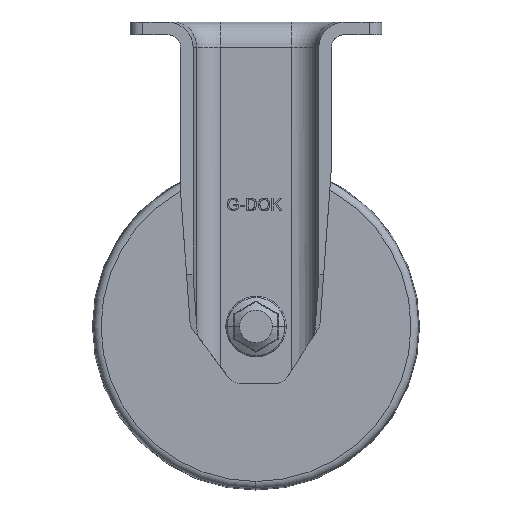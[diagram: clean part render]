
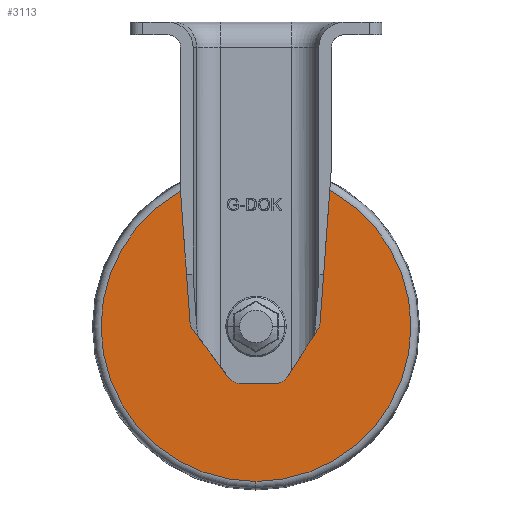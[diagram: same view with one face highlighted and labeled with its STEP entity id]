
A CAD part, front view. The second image highlights one B-rep face of the part: STEP entity #3113.
In plain terms, the highlighted planar face has unit normal (0, -1, 0).
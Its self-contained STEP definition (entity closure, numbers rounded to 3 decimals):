
#215=CARTESIAN_POINT('',(37.8,23.56,39.444));
#216=VERTEX_POINT('',#215);
#225=CARTESIAN_POINT('',(37.8,23.56,162.556));
#226=VERTEX_POINT('',#225);
#234=CARTESIAN_POINT('',(37.8,23.56,101.));
#235=DIRECTION('',(0.0,1.0,0.0));
#236=DIRECTION('',(0.0,0.0,-1.0));
#237=AXIS2_PLACEMENT_3D('',#234,#235,#236);
#238=CIRCLE('',#237,61.556);
#239=EDGE_CURVE('',#226,#216,#238,.T.);
#283=CARTESIAN_POINT('',(37.8,23.56,91.0));
#284=VERTEX_POINT('',#283);
#293=CARTESIAN_POINT('',(37.8,23.56,111.));
#294=VERTEX_POINT('',#293);
#295=CARTESIAN_POINT('',(37.8,23.56,101.));
#296=DIRECTION('',(0.0,1.0,0.0));
#297=DIRECTION('',(0.0,0.0,-1.0));
#298=AXIS2_PLACEMENT_3D('',#295,#296,#297);
#299=CIRCLE('',#298,10.);
#300=EDGE_CURVE('',#294,#284,#299,.T.);
#3046=CARTESIAN_POINT('',(37.8,23.56,101.));
#3047=DIRECTION('',(0.0,1.0,0.0));
#3048=DIRECTION('',(0.0,0.0,-1.0));
#3049=AXIS2_PLACEMENT_3D('',#3046,#3047,#3048);
#3050=CIRCLE('',#3049,10.);
#3051=EDGE_CURVE('',#284,#294,#3050,.T.);
#3094=CARTESIAN_POINT('',(37.8,23.56,65.222));
#3095=DIRECTION('',(0.0,-1.0,0.0));
#3096=DIRECTION('',(0.0,0.0,1.0));
#3097=AXIS2_PLACEMENT_3D('',#3094,#3095,#3096);
#3098=PLANE('',#3097);
#3099=CARTESIAN_POINT('',(37.8,23.56,101.));
#3100=DIRECTION('',(0.0,1.0,0.0));
#3101=DIRECTION('',(0.0,0.0,-1.0));
#3102=AXIS2_PLACEMENT_3D('',#3099,#3100,#3101);
#3103=CIRCLE('',#3102,61.556);
#3104=EDGE_CURVE('',#216,#226,#3103,.T.);
#3105=ORIENTED_EDGE('',*,*,#3104,.F.);
#3106=ORIENTED_EDGE('',*,*,#239,.F.);
#3107=EDGE_LOOP('',(#3105,#3106));
#3108=FACE_OUTER_BOUND('',#3107,.T.);
#3109=ORIENTED_EDGE('',*,*,#3051,.T.);
#3110=ORIENTED_EDGE('',*,*,#300,.T.);
#3111=EDGE_LOOP('',(#3109,#3110));
#3112=FACE_BOUND('',#3111,.T.);
#3113=ADVANCED_FACE('',(#3108,#3112),#3098,.T.);
